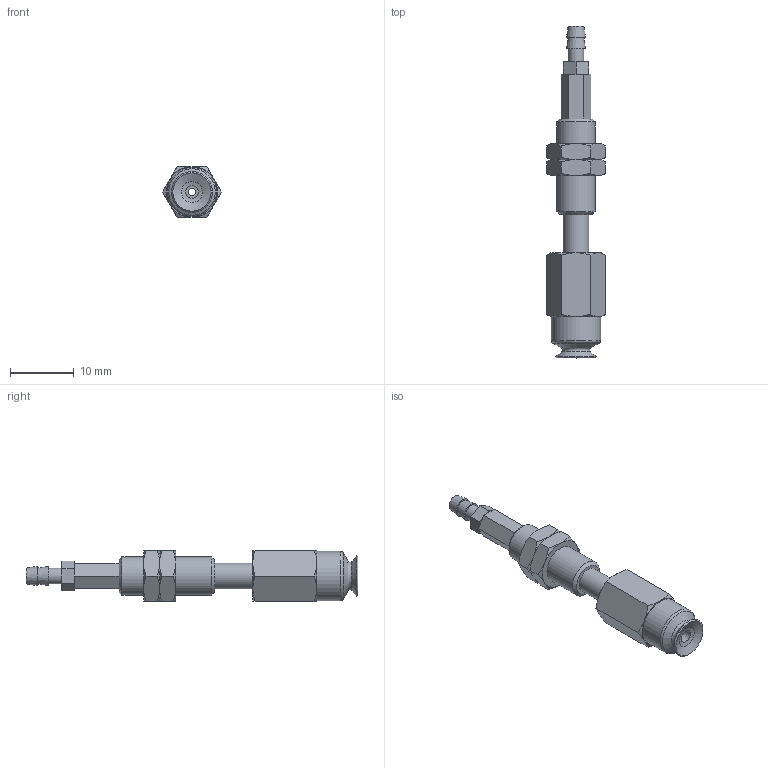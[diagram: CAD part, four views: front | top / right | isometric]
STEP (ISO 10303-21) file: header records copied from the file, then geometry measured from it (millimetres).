
FILE_DESCRIPTION(('STEP AP203'),'1');
FILE_NAME('-T.stp','2025-08-27T05:40:32',(' '),(' '),'Spatial InterOp 3D',' ',' ');
FILE_SCHEMA(('CONFIG_CONTROL_DESIGN'));
Length unit declared in the file: millimetre
Products named in the file (7): BNABPFTS-6A-6-※-T; ADAPTER; NAPCTS-7-6-MBODY; Nut-6A-6-s; NAPFTS-6A-6-FBODY; BPFG-6A-※; T (2)
Assembly tree (7 placements, depth 2):
  BNABPFTS-6A-6-※-T
    ADAPTER
    NAPCTS-7-6-MBODY
    Nut-6A-6-s  x2
    NAPFTS-6A-6-FBODY
    BPFG-6A-※
    T (2)
Bounding box: 9.24 x 52.1 x 8 mm (x, y, z)
Volume: 1544.2 mm3; surface area: 2346.4 mm2
Topology: 7 solids, 7 shells, 134 faces, 278 edges, 166 vertices
Faces by surface type: plane 58, cone 51, cylinder 17, torus 7, bspline 1
Full cylindrical faces by diameter (mm): 1.2 x3, 2 x1, 2.459 x1, 2.5 x1, 3 x1, 4 x4, 5.188 x2, 6 x3, 7.7 x1
Entity records: 3223 total; most frequent: CARTESIAN_POINT 728, DIRECTION 456, ORIENTED_EDGE 372, AXIS2_PLACEMENT_3D 201, EDGE_CURVE 186, EDGE_LOOP 167, FACE_OUTER_BOUND 135, VERTEX_POINT 131
